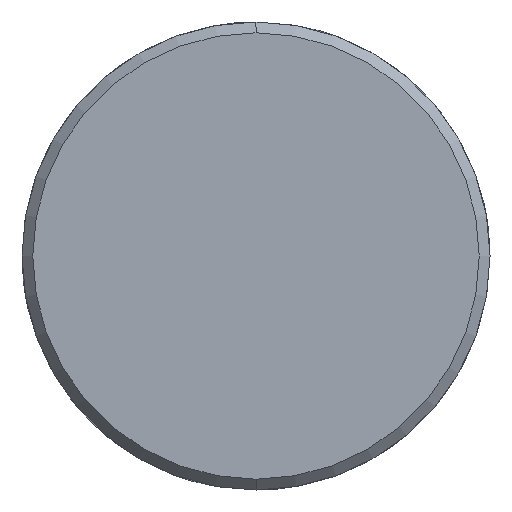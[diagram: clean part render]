
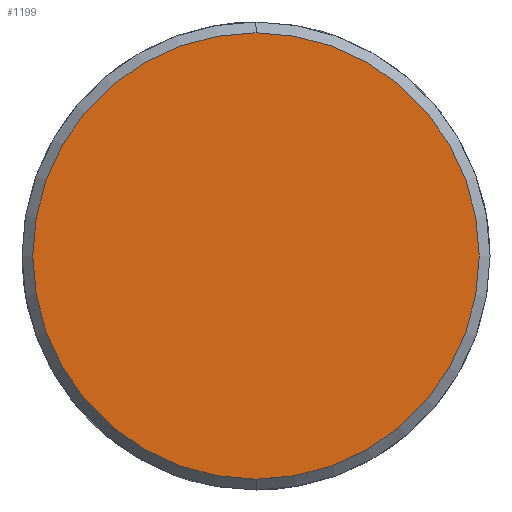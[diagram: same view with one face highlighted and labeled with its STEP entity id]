
A CAD part, left-side view. The second image highlights one B-rep face of the part: STEP entity #1199.
In plain terms, the highlighted planar face has unit normal (-1, 0, 0).
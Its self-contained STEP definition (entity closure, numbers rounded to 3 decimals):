
#1131=CARTESIAN_POINT('Vertex',(-10.,0.,-31.)) ;
#1134=CARTESIAN_POINT('Axis2P3D Location',(-10.,0.,0.)) ;
#1138=CARTESIAN_POINT('Vertex',(-10.,31.,0.)) ;
#1141=CARTESIAN_POINT('Axis2P3D Location',(-10.,0.,0.)) ;
#1145=CARTESIAN_POINT('Vertex',(-10.,0.,31.)) ;
#1167=CARTESIAN_POINT('Axis2P3D Location',(-10.,0.,0.)) ;
#1171=CARTESIAN_POINT('Vertex',(-10.,-31.,0.)) ;
#1174=CARTESIAN_POINT('Axis2P3D Location',(-10.,0.,0.)) ;
#1188=CARTESIAN_POINT('Axis2P3D Location',(-10.,0.,0.)) ;
#1135=DIRECTION('Axis2P3D Direction',(1.,0.,-0.)) ;
#1142=DIRECTION('Axis2P3D Direction',(1.,0.,-0.)) ;
#1168=DIRECTION('Axis2P3D Direction',(1.,0.,-0.)) ;
#1175=DIRECTION('Axis2P3D Direction',(1.,0.,-0.)) ;
#1189=DIRECTION('Axis2P3D Direction',(1.,0.,-0.)) ;
#1190=DIRECTION('Axis2P3D XDirection',(-0.,0.,-1.)) ;
#1136=AXIS2_PLACEMENT_3D('Circle Axis2P3D',#1134,#1135,$) ;
#1143=AXIS2_PLACEMENT_3D('Circle Axis2P3D',#1141,#1142,$) ;
#1169=AXIS2_PLACEMENT_3D('Circle Axis2P3D',#1167,#1168,$) ;
#1176=AXIS2_PLACEMENT_3D('Circle Axis2P3D',#1174,#1175,$) ;
#1191=AXIS2_PLACEMENT_3D('Plane Axis2P3D',#1188,#1189,#1190) ;
#1194=ORIENTED_EDGE('',*,*,#1140,.F.) ;
#1195=ORIENTED_EDGE('',*,*,#1178,.F.) ;
#1196=ORIENTED_EDGE('',*,*,#1173,.F.) ;
#1197=ORIENTED_EDGE('',*,*,#1147,.F.) ;
#1199=ADVANCED_FACE('351-50X126X260',(#1198),#1192,.F.) ;
#1137=CIRCLE('generated circle',#1136,31.) ;
#1144=CIRCLE('generated circle',#1143,31.) ;
#1170=CIRCLE('generated circle',#1169,31.) ;
#1177=CIRCLE('generated circle',#1176,31.) ;
#1140=EDGE_CURVE('',#1132,#1139,#1137,.T.) ;
#1147=EDGE_CURVE('',#1139,#1146,#1144,.T.) ;
#1173=EDGE_CURVE('',#1146,#1172,#1170,.T.) ;
#1178=EDGE_CURVE('',#1172,#1132,#1177,.T.) ;
#1193=EDGE_LOOP('',(#1194,#1195,#1196,#1197)) ;
#1198=FACE_OUTER_BOUND('',#1193,.T.) ;
#1192=PLANE('Plane',#1191) ;
#1132=VERTEX_POINT('',#1131) ;
#1139=VERTEX_POINT('',#1138) ;
#1146=VERTEX_POINT('',#1145) ;
#1172=VERTEX_POINT('',#1171) ;
